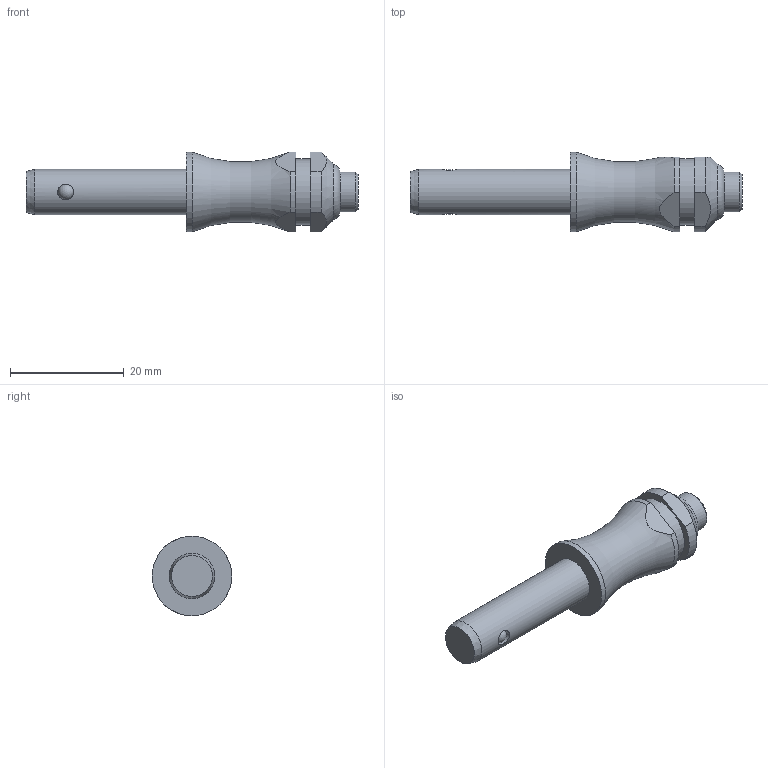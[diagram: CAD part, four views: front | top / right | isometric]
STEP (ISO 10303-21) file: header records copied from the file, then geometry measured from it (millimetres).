
FILE_DESCRIPTION( ( 'STEP AP203' ), '1' );
FILE_NAME( 'C:/Temp/Ganter_Step_05_03_2020/data/3_1/gn113_3/Stainless Steel-Ball lock pin GN 113.3-8-20 (activated).stp', '2020-03-12T08:18:23', ( 'License CC BY-ND 4.0' ), ( 'CADENAS' ), ' ', 'PARTsolutions', ' ' );
FILE_SCHEMA( ( 'CONFIG_CONTROL_DESIGN' ) );
Length unit declared in the file: millimetre
Products named in the file (1): _Stainless Steel-Ball lock pin GN 113.3-8-20 (activated)
Bounding box: 58.35 x 14 x 14 mm (x, y, z)
Volume: 4506.6 mm3; surface area: 2126.3 mm2
Topology: 1 solids, 1 shells, 30 faces, 72 edges, 45 vertices
Faces by surface type: cylinder 12, plane 11, cone 3, torus 2, sphere 2
Full cylindrical faces by diameter (mm): 2.78 x2, 7 x1, 8 x1, 11.6 x1, 14 x1
Entity records: 968 total; most frequent: CARTESIAN_POINT 321, DIRECTION 130, ORIENTED_EDGE 102, AXIS2_PLACEMENT_3D 56, EDGE_CURVE 51, EDGE_LOOP 46, VERTEX_POINT 39, FACE_OUTER_BOUND 38
